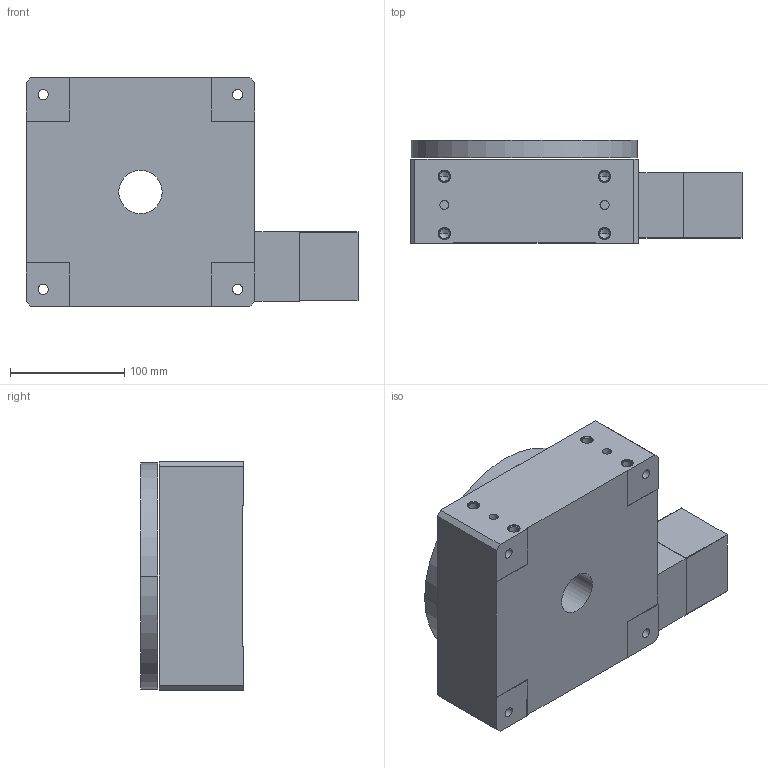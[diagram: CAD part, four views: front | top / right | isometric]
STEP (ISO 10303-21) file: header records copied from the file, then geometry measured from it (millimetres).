
FILE_DESCRIPTION((''),'2;1');
FILE_NAME('R200M7M22E0_ASM','2009-07-02T',('FK20128'),(''),'PRO/ENGINEER BY PARAMETRIC TECHNOLOGY CORPORATION, 2006200','PRO/ENGINEER BY PARAMETRIC TECHNOLOGY CORPORATION, 2006200','');
FILE_SCHEMA(('CONFIG_CONTROL_DESIGN'));
Length unit declared in the file: millimetre
Products named in the file (3): R200M; R200M-M22; R200M7M22E0_ASM
Assembly tree (2 placements, depth 2):
  R200M7M22E0_ASM
    R200M
    R200M-M22
Bounding box: 290.12 x 90 x 200 mm (x, y, z)
Volume: 3498655.1 mm3; surface area: 267257.7 mm2
Topology: 3 solids, 19 shells, 240 faces, 594 edges, 382 vertices
Faces by surface type: cylinder 126, plane 72, cone 42
Entity records: 7163 total; most frequent: DIRECTION 1366, CARTESIAN_POINT 1191, ORIENTED_EDGE 1060, EDGE_CURVE 562, AXIS2_PLACEMENT_3D 557, VERTEX_POINT 382, EDGE_LOOP 324, CIRCLE 310
